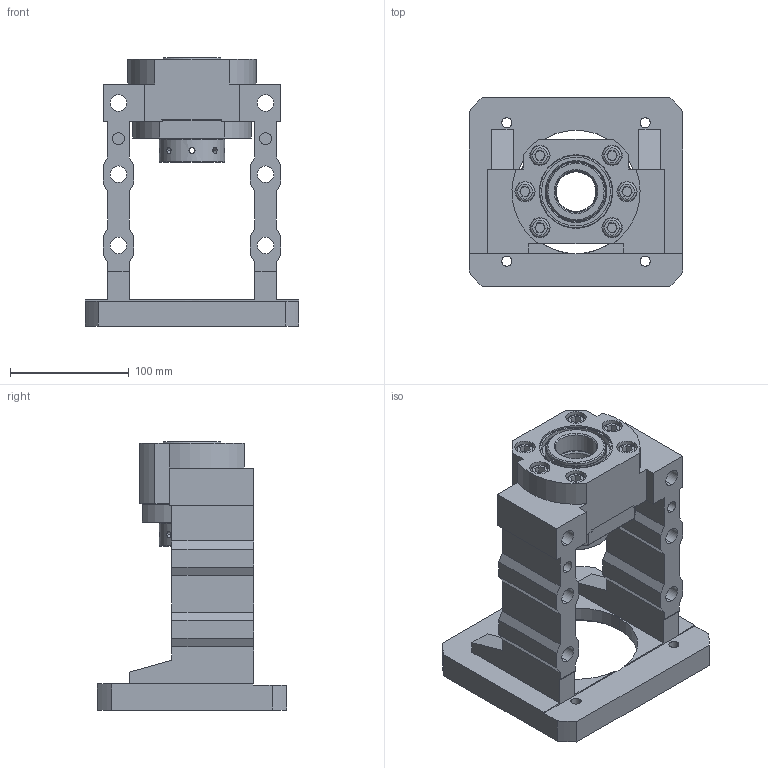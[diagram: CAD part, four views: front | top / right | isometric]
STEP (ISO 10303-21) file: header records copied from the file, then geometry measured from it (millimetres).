
FILE_DESCRIPTION (( 'STEP AP203' ), '1' );
FILE_NAME ('MBCS35-I²Õ¦X¥ó.STEP', '2021-12-20T02:17:31', ( '' ), ( '' ), 'SwSTEP 2.0', 'SolidWorks 2018', '' );
FILE_SCHEMA (( 'CONFIG_CONTROL_DESIGN' ));
Length unit declared in the file: millimetre
Products named in the file (1): MBCS35-I組合件
Bounding box: 180 x 160 x 226 mm (x, y, z)
Surface area: 229400.9 mm2 (no closed solid volume)
Topology: 0 solids, 22 shells, 361 faces, 1020 edges, 673 vertices
Faces by surface type: plane 138, cylinder 127, cone 64, torus 20, bspline 12
Entity records: 27255 total; most frequent: CARTESIAN_POINT 17887, DIRECTION 1971, ORIENTED_EDGE 1804, EDGE_CURVE 1012, AXIS2_PLACEMENT_3D 739, VERTEX_POINT 673, LINE 493, VECTOR 493
